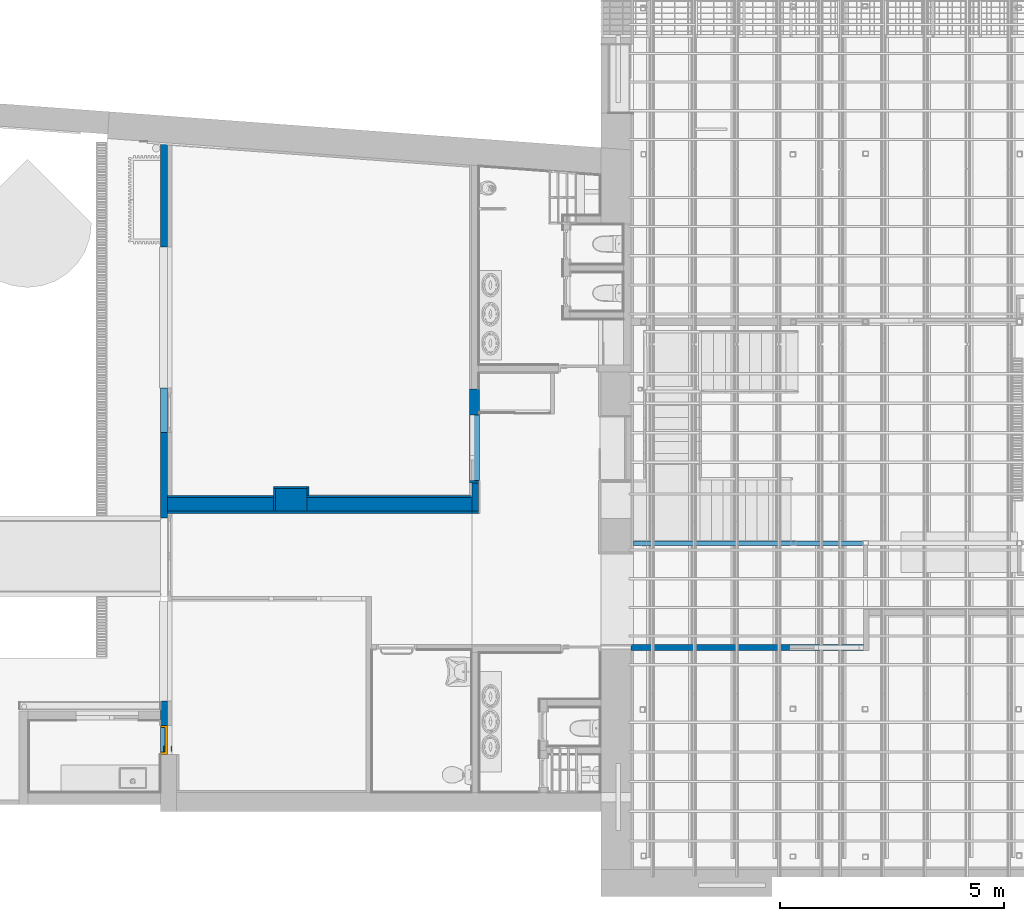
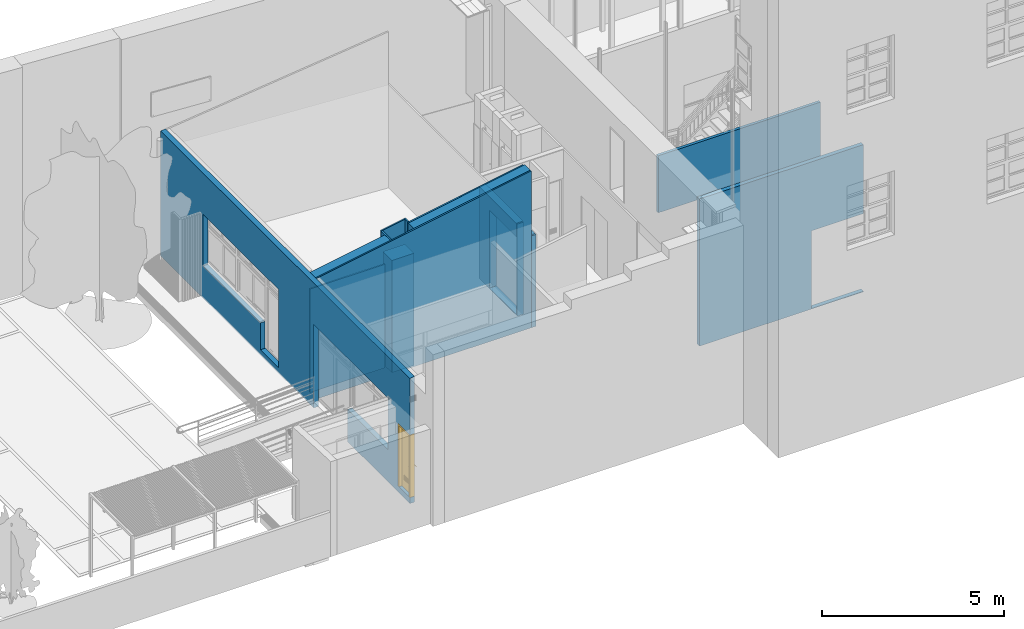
# One storey, part 36 of 75: 16 walls, 1 door, 5 openings.
"""IFC2X3 building model written with IfcOpenShell, lengths in metres."""

from ifc_helpers import new_model, entity, si_unit, converted_unit, derived_unit, direction, frame, frame_2d, origin, origin_2d_with_axis, place, context, subcontext, project, spatial, polyline, rectangle, outline, extrude, clip, bounded_halfspace, source, transform, mapped, material, material_list, layer, layer_set, layer_usage, type_object, type_shapes, element, fill, save


model = new_model("IFC2X3")

# Units and contexts
model_context = context("Model", 3, precision=1e-05, world=origin(), true_north=direction((6.12303176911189e-17, 1.0)))
body_context = subcontext(model_context, "Body", "Model", "MODEL_VIEW")
ifc_project = project(units=[si_unit("LENGTHUNIT", "METRE"), si_unit("AREAUNIT", "SQUARE_METRE"), si_unit("VOLUMEUNIT", "CUBIC_METRE"), converted_unit("PLANEANGLEUNIT", "DEGREE", entity("IfcRatioMeasure", 0.0174532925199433), si_unit("PLANEANGLEUNIT", "RADIAN"), dimensions=[0, 0, 0, 0, 0, 0, 0]), si_unit("MASSUNIT", "GRAM", prefix="KILO"), derived_unit("MASSDENSITYUNIT", [(si_unit("MASSUNIT", "GRAM", prefix="KILO"), 1), (si_unit("LENGTHUNIT", "METRE"), -3)]), derived_unit("MOMENTOFINERTIAUNIT", [(si_unit("LENGTHUNIT", "METRE"), 4)]), si_unit("TIMEUNIT", "SECOND"), si_unit("FREQUENCYUNIT", "HERTZ"), si_unit("THERMODYNAMICTEMPERATUREUNIT", "DEGREE_CELSIUS"), derived_unit("THERMALTRANSMITTANCEUNIT", [(si_unit("MASSUNIT", "GRAM", prefix="KILO"), 1), (si_unit("THERMODYNAMICTEMPERATUREUNIT", "KELVIN"), -1), (si_unit("TIMEUNIT", "SECOND"), -3)]), derived_unit("VOLUMETRICFLOWRATEUNIT", [(si_unit("LENGTHUNIT", "METRE"), 3), (si_unit("TIMEUNIT", "SECOND"), -1)]), si_unit("ELECTRICCURRENTUNIT", "AMPERE"), si_unit("ELECTRICVOLTAGEUNIT", "VOLT"), si_unit("POWERUNIT", "WATT"), si_unit("FORCEUNIT", "NEWTON", prefix="KILO"), si_unit("ILLUMINANCEUNIT", "LUX"), si_unit("LUMINOUSFLUXUNIT", "LUMEN"), si_unit("LUMINOUSINTENSITYUNIT", "CANDELA"), derived_unit("USERDEFINED", [(si_unit("MASSUNIT", "GRAM", prefix="KILO"), -1), (si_unit("LENGTHUNIT", "METRE"), -2), (si_unit("TIMEUNIT", "SECOND"), 3), (si_unit("LUMINOUSFLUXUNIT", "LUMEN"), 1)]), derived_unit("LINEARVELOCITYUNIT", [(si_unit("LENGTHUNIT", "METRE"), 1), (si_unit("TIMEUNIT", "SECOND"), -1)]), si_unit("PRESSUREUNIT", "PASCAL"), derived_unit("USERDEFINED", [(si_unit("LENGTHUNIT", "METRE"), -2), (si_unit("MASSUNIT", "GRAM", prefix="KILO"), 1), (si_unit("TIMEUNIT", "SECOND"), -2)]), derived_unit("LINEARFORCEUNIT", [(si_unit("MASSUNIT", "GRAM", prefix="KILO"), 1), (si_unit("LENGTHUNIT", "METRE"), 1), (si_unit("TIMEUNIT", "SECOND"), -2), (si_unit("LENGTHUNIT", "METRE"), -1)]), derived_unit("PLANARFORCEUNIT", [(si_unit("MASSUNIT", "GRAM", prefix="KILO"), 1), (si_unit("LENGTHUNIT", "METRE"), 1), (si_unit("TIMEUNIT", "SECOND"), -2), (si_unit("LENGTHUNIT", "METRE"), -2)])], contexts=[model_context])

# Site, building, storey
site_placement = place(None, origin())
site = spatial("IfcSite", under=ifc_project, at=site_placement, Name="Superficie", CompositionType="ELEMENT")
building_placement = place(site_placement, origin())
building = spatial("IfcBuilding", under=site, at=building_placement, Name="Telegestiones", CompositionType="ELEMENT")
storey_placement = place(building_placement, origin())
storey = spatial("IfcBuildingStorey", under=building, at=storey_placement, Name="Nivel 0_NPT", CompositionType="ELEMENT", Elevation=0.0)

# Wall, openings, door
ifc_material_1 = material(Name="Muro por defecto")
ifc_layer_1 = layer(ifc_material_1, 0.02)
ifc_layer_2 = layer(ifc_material_1, 0.13)
ifc_layer_set_1 = layer_set([ifc_layer_1, ifc_layer_2], Name="Muro básico:ARQ-MU-EX-15-Gen")
ifc_layer_usage_1 = layer_usage(ifc_layer_set_1, "AXIS2", "POSITIVE", -0.075)
wall_type_1 = type_object("IfcWallType", Name="Muro básico:ARQ-MU-EX-15-Gen", PredefinedType="STANDARD", material=ifc_layer_set_1)
wall_1_placement = place(storey_placement, frame((-4.41018737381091, 10.4435135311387, -0.2), z_axis=(0.0, 0.0, 1.0), x_axis=(0.0, -1.0, 0.0)))
wall_1 = element("IfcWallStandardCase", 1, at=wall_1_placement, inside=storey, type_object=wall_type_1, material=ifc_layer_usage_1, Name="Muro básico:ARQ-MU-EX-15-Gen", ObjectType="Muro básico:ARQ-MU-EX-15-Gen", context=body_context, shape_type="Clipping", body=[
    clip(extrude(outline(polyline([(0.0, -0.0750000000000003), (13.6799063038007, -0.0750000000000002), (13.6799063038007, 0.0749999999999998), (8.23892903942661, 0.0750000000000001), (7.93892903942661, 0.0750000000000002), (0.0109807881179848, 0.0749999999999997), (0.0, -0.0750000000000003)])), origin(), (0.0, 0.0, 1.0), 4.211), bounded_halfspace(frame((0.0, -0.0750000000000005, 4.184), z_axis=(0.0, -0.177152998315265, 0.984183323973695), x_axis=(1.0, 0.0, 0.0)), False, frame((0.0, -0.0750000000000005, 4.184)), polyline([(0.0, 0.0), (13.6799063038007, 0.0), (13.6799063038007, 0.15), (8.23892903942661, 0.15), (7.93892903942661, 0.15), (0.0109807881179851, 0.15), (0.0, 0.0)]))),
])
opening_1_placement = place(wall_1_placement, origin())
element("IfcOpeningElement", 2, at=opening_1_placement, cuts=wall_1, Name="Muro básico:ARQ-MU-EX-15-Gen", ObjectType="Opening", context=body_context, shape_type="SweptSolid", body=[
    extrude(outline(polyline([(0.273333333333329, 0.716666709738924), (1.17333333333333, 0.716666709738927), (1.17333333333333, 1.71666670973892), (-1.44666666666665, 1.71666670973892), (-1.44666666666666, -2.43333341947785), (0.273333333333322, -2.43333341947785), (0.273333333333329, 0.716666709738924)])), frame((4.76688353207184, 0.0750000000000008, 1.35333333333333), z_axis=(0.0, -1.0, 0.0), x_axis=(0.0, 0.0, -1.0)), (0.0, 0.0, 1.0), 0.15),
])
opening_2_placement = place(wall_1_placement, origin())
element("IfcOpeningElement", 3, at=opening_2_placement, cuts=wall_1, Name="Muro básico:ARQ-MU-EX-15-Gen", ObjectType="Opening", context=body_context, shape_type="SweptSolid", body=[
    extrude(outline(polyline([(-1.94561486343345, -1.50857142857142), (-0.0956148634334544, -1.50857142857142), (-0.0956148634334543, -0.428571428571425), (2.14438546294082, -0.428571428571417), (2.14438546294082, 1.29142857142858), (-0.206311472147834, 1.29142857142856), (-1.94561486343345, 1.29142857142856), (-1.94561486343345, -1.50857142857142)])), frame((10.3452405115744, 0.0750000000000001, 1.50857142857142), z_axis=(0.0, -1.0, 0.0), x_axis=(1.0, 0.0, 0.0)), (0.0, 0.0, 1.0), 0.15),
])
opening_3_placement = place(wall_1_placement, frame((13.6799063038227, 0.0749999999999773, 0.2)))
opening_3 = element("IfcOpeningElement", 4, at=opening_3_placement, cuts=wall_1, Name="ARQ-PU-INT-90x210-Mad-C2:ARQ-PU-INT-65x210-Mad:1", ObjectType="Opening", context=body_context, shape_type="SweptSolid", body=[
    extrude(rectangle(XDim=2.09999999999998, YDim=0.65, at=frame_2d((1.04999999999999, 0.325000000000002), x_axis=(1.0, 0.0))), frame((0.0, 0.0, 0.0), z_axis=(0.0, -1.0, 0.0), x_axis=(0.0, 0.0, 1.0)), (0.0, 0.0, 1.0), 0.15),
])
ifc_material_2 = material(Name="Caoba")
ifc_material_3 = material(Name="Aluminio")
ifc_material_4 = material(Name="<Unnamed>")
ifc_material_list_1 = material_list([ifc_material_2, ifc_material_3, ifc_material_3, ifc_material_3, ifc_material_3, ifc_material_3, ifc_material_3, ifc_material_4, ifc_material_4, ifc_material_2])
ifc_material_list_2 = material_list([ifc_material_2, ifc_material_3, ifc_material_3, ifc_material_3, ifc_material_3, ifc_material_3, ifc_material_3, ifc_material_4, ifc_material_4, ifc_material_2])
door_style = type_object("IfcDoorStyle", Name="ARQ-PU-INT-90x210-Mad-C2:ARQ-PU-INT-65x210-Mad", ConstructionType="NOTDEFINED", OperationType="DOUBLE_SWING_RIGHT", ParameterTakesPrecedence=False, Sizeable=False, material=ifc_material_list_2)
shared_shape = source(origin(), body_context, "Body", "SweptSolid", [
    extrude(outline(polyline([(-0.324999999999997, -1.06249999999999), (0.325000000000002, -1.06249999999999), (0.325000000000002, 1.03749999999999), (0.275000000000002, 1.03749999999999), (0.275000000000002, -1.01249999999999), (-0.275000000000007, -1.01249999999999), (-0.275000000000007, 1.03749999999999), (-0.324999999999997, 1.03749999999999), (-0.324999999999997, -1.06249999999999)])), frame((0.324999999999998, -0.15, 1.03749999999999), z_axis=(0.0, 1.0, 0.0), x_axis=(1.0, 0.0, 0.0)), (0.0, 0.0, 1.0), 0.15),
    extrude(rectangle(XDim=0.00504261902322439, YDim=0.0554154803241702, at=frame_2d((-2.97071395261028e-17, -1.73472347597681e-17), x_axis=(1.0, 0.0))), frame((0.145000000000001, -0.125056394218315, 0.409593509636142), z_axis=(1.0, 0.0, 0.0), x_axis=(0.0, -0.514495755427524, -0.857492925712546)), (0.0, 0.0, 1.0), 0.36),
    extrude(rectangle(XDim=0.00504261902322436, YDim=0.0554154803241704, at=frame_2d((1.25767452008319e-17, 1.21430643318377e-17), x_axis=(1.0, 0.0))), frame((0.145000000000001, -0.125056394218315, 0.289593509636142), z_axis=(1.0, 0.0, 0.0), x_axis=(0.0, -0.514495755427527, -0.857492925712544)), (0.0, 0.0, 1.0), 0.36),
    extrude(rectangle(XDim=0.00504261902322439, YDim=0.0554154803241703, at=frame_2d((-4.33680868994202e-18, 8.67361737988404e-18), x_axis=(1.0, 0.0))), frame((0.145000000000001, -0.125056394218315, 0.379593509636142), z_axis=(1.0, 0.0, 0.0), x_axis=(0.0, -0.514495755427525, -0.857492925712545)), (0.0, 0.0, 1.0), 0.36),
    extrude(rectangle(XDim=0.00504261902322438, YDim=0.0554154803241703, at=origin_2d_with_axis()), frame((0.145000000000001, -0.125056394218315, 0.349593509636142), z_axis=(1.0, 0.0, 0.0), x_axis=(0.0, -0.514495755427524, -0.857492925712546)), (0.0, 0.0, 1.0), 0.36),
    extrude(rectangle(XDim=0.00504261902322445, YDim=0.0554154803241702, at=frame_2d((-2.16840434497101e-18, 1.73472347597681e-18), x_axis=(1.0, 0.0))), frame((0.145000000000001, -0.125056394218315, 0.319593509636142), z_axis=(1.0, 0.0, 0.0), x_axis=(0.0, -0.514495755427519, -0.857492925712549)), (0.0, 0.0, 1.0), 0.36),
    extrude(outline(polyline([(-0.1, -0.2), (0.1, -0.2), (0.1, 0.2), (-0.1, 0.2), (-0.1, -0.2)]), holes=[polyline([(-0.08, -0.18), (-0.08, 0.18), (0.08, 0.18), (0.08, -0.18), (-0.08, -0.18)])]), frame((0.325000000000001, -0.15, 0.35), z_axis=(0.0, 1.0, 0.0), x_axis=(0.0, 0.0, -1.0)), (0.0, 0.0, 1.0), 0.05),
    extrude(rectangle(XDim=0.0196001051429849, YDim=0.120000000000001, at=frame_2d((-1.64798730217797e-17, -6.93889390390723e-18), x_axis=(1.0, 0.0))), frame((0.130322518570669, -0.244800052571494, 0.90000000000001), z_axis=(0.0, 0.0, 1.0), x_axis=(0.0, -1.0, 0.0)), (0.0, 0.0, 1.0), 0.0200000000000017),
    extrude(rectangle(XDim=0.02, YDim=0.12, at=origin_2d_with_axis()), frame((0.130322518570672, -0.0799999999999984, 0.900000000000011), z_axis=(0.0, 0.0, 1.0), x_axis=(0.0, 1.0, 0.0)), (0.0, 0.0, 1.0), 0.0200000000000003),
    extrude(outline(polyline([(-1.02499999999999, -0.275000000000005), (1.02499999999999, -0.275000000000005), (1.02499999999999, 0.275000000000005), (-1.02499999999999, 0.275000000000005), (-1.02499999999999, -0.275000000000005)]), holes=[polyline([(0.57499999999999, -0.200000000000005), (0.57499999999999, 0.199999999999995), (0.77499999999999, 0.199999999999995), (0.77499999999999, -0.200000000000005), (0.57499999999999, -0.200000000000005)])]), frame((0.324999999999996, -0.15, 1.02499999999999), z_axis=(0.0, 1.0, 0.0), x_axis=(0.0, 0.0, -1.0)), (0.0, 0.0, 1.0), 0.05),
])
type_shapes(door_style, [shared_shape])
door_placement = place(opening_3_placement, frame((0.0, -0.149999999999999, 0.0), z_axis=(0.0, 0.0, 1.0), x_axis=(-1.0, 0.0, 0.0)))
door = element("IfcDoor", 5, at=door_placement, inside=storey, type_object=door_style, material=ifc_material_list_1, Name="ARQ-PU-INT-90x210-Mad-C2:ARQ-PU-INT-65x210-Mad", ObjectType="ARQ-PU-INT-90x210-Mad-C2:ARQ-PU-INT-65x210-Mad", OverallHeight=2.09999999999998, OverallWidth=0.650000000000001, context=body_context, shape_type="MappedRepresentation", body=[
    mapped(shared_shape, transform((0.0, 0.0, 0.0), scale=1.0)),
])
fill(opening_3, door)

# Walls
ifc_layer_3 = layer(ifc_material_1, 0.3)
ifc_layer_set_2 = layer_set([ifc_layer_3], Name="Muro básico:ARQ-MU-IN-30-Gen")
ifc_layer_usage_2 = layer_usage(ifc_layer_set_2, "AXIS2", "POSITIVE", -0.15)
wall_type_2 = type_object("IfcWallType", Name="Muro básico:ARQ-MU-IN-30-Gen", PredefinedType="STANDARD", material=ifc_layer_set_2)
wall_2_placement = place(storey_placement, frame((-4.33518737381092, 2.35458449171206, -0.0199999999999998)))
element("IfcWallStandardCase", 6, at=wall_2_placement, inside=storey, type_object=wall_type_2, material=ifc_layer_usage_2, Name="Muro básico:ARQ-MU-IN-30-Gen", ObjectType="Muro básico:ARQ-MU-IN-30-Gen", context=body_context, shape_type="Clipping", body=[
    clip(extrude(rectangle(XDim=2.37001266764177, YDim=0.3, at=frame_2d((1.18500633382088, -1.38777878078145e-16), x_axis=(-1.0, 0.0))), origin(), (0.0, 0.0, 1.0), 4.45760228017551), bounded_halfspace(frame((0.0, -0.15, 4.031), z_axis=(-0.177152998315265, 0.0, 0.984183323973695), x_axis=(0.0, -1.0, 0.0)), False, frame((0.0, -0.15, 4.031)), polyline([(0.0, 0.0), (2.37001266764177, 0.0), (2.37001266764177, 0.3), (0.0, 0.3), (0.0, 0.0)]))),
])
ifc_layer_usage_3 = layer_usage(ifc_layer_set_2, "AXIS2", "POSITIVE", -0.15)
wall_3_placement = place(storey_placement, frame((-1.22398060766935, 2.35458449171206, -0.0199999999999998)))
element("IfcWallStandardCase", 7, at=wall_3_placement, inside=storey, type_object=wall_type_2, material=ifc_layer_usage_3, Name="Muro básico:ARQ-MU-IN-30-Gen", ObjectType="Muro básico:ARQ-MU-IN-30-Gen", context=body_context, shape_type="Clipping", body=[
    clip(extrude(rectangle(XDim=3.69879323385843, YDim=0.3, at=frame_2d((1.84939661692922, -1.38777878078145e-16), x_axis=(-1.0, 0.0))), origin(), (0.0, 0.0, 1.0), 5.25679999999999), bounded_halfspace(frame((0.0, -0.15, 4.59101721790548), z_axis=(-0.177152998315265, 0.0, 0.984183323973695), x_axis=(0.0, -1.0, 0.0)), False, frame((0.0, -0.15, 4.59101721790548)), polyline([(0.0, 0.0), (3.69879323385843, 0.0), (3.69879323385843, 0.3), (3.64879323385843, 0.3), (0.0, 0.3), (0.0, 0.0)]))),
])
ifc_layer_4 = layer(ifc_material_1, 0.15)
ifc_layer_set_3 = layer_set([ifc_layer_4], Name="Muro básico:ARQ-MU-IN-15-Gen")
ifc_layer_usage_4 = layer_usage(ifc_layer_set_3, "AXIS2", "POSITIVE", -0.075)
wall_type_3 = type_object("IfcWallType", Name="Muro básico:ARQ-MU-IN-15-Gen", PredefinedType="STANDARD", material=ifc_layer_set_3)
wall_4_placement = place(storey_placement, frame((2.54981262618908, 2.20458449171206, -0.0199999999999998), z_axis=(0.0, 0.0, 1.0), x_axis=(0.0, 1.0, 0.0)))
element("IfcWallStandardCase", 8, at=wall_4_placement, inside=storey, type_object=wall_type_3, material=ifc_layer_usage_4, Name="Muro básico:ARQ-MU-IN-15-Gen", ObjectType="Muro básico:ARQ-MU-IN-15-Gen", context=body_context, shape_type="SweptSolid", body=[
    extrude(rectangle(XDim=0.627951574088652, YDim=0.149999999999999, at=frame_2d((0.313975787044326, 8.32667268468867e-17), x_axis=(-1.0, 0.0))), origin(), (0.0, 0.0, 1.0), 3.08),
])

# Wall, opening
ifc_material_5 = material(Name="Placa yeso entera")
ifc_layer_5 = layer(ifc_material_5, 0.015)
ifc_layer_6 = layer(ifc_material_5, 0.015)
ifc_material_6 = material(Name="Estructura de Hierro Galvanizado")
ifc_layer_7 = layer(ifc_material_6, 0.07)
ifc_layer_8 = layer(ifc_material_5, 0.015)
ifc_layer_9 = layer(ifc_material_5, 0.015)
ifc_layer_set_4 = layer_set([ifc_layer_5, ifc_layer_6, ifc_layer_7, ifc_layer_8, ifc_layer_9], Name="Muro básico:ARQ-MU-IN-13-Ye-T4")
ifc_layer_usage_5 = layer_usage(ifc_layer_set_4, "AXIS2", "NEGATIVE", 0.065)
wall_type_4 = type_object("IfcWallType", Name="Muro básico:ARQ-MU-IN-13-Ye-T4", PredefinedType="STANDARD", material=ifc_layer_set_4)
wall_5_placement = place(storey_placement, frame((6.03428977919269, -0.846462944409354, -0.0199999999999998)))
wall_5 = element("IfcWallStandardCase", 9, at=wall_5_placement, inside=storey, type_object=wall_type_4, material=ifc_layer_usage_5, Name="Muro básico:ARQ-MU-IN-13-Ye-T4", ObjectType="Muro básico:ARQ-MU-IN-13-Ye-T4", context=body_context, shape_type="SweptSolid", body=[
    extrude(rectangle(XDim=5.18955952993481, YDim=0.13, at=frame_2d((2.59477976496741, 1.38777878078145e-17), x_axis=(-1.0, 0.0))), origin(), (0.0, 0.0, 1.0), 4.93),
])
opening_4_placement = place(wall_5_placement, origin())
element("IfcOpeningElement", 10, at=opening_4_placement, cuts=wall_5, Name="Muro básico:ARQ-MU-IN-13-Ye-T4", ObjectType="Opening", context=body_context, shape_type="SweptSolid", body=[
    extrude(rectangle(XDim=2.6, YDim=1.65, at=frame_2d((-4.9960036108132e-16, 0.0), x_axis=(0.0, 1.0))), frame((4.36455952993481, -0.2174, 1.32), z_axis=(0.0, 1.0, 0.0), x_axis=(-1.0, 0.0, 0.0)), (0.0, 0.0, 1.0), 0.4348),
])

# Wall
ifc_layer_10 = layer(ifc_material_5, 0.01)
ifc_layer_11 = layer(ifc_material_6, 0.07)
ifc_layer_12 = layer(ifc_material_5, 0.01)
ifc_layer_set_5 = layer_set([ifc_layer_10, ifc_layer_11, ifc_layer_12], Name="Muro básico:ARQ-MU-IN-9-Ye-T2")
ifc_layer_usage_6 = layer_usage(ifc_layer_set_5, "AXIS2", "NEGATIVE", 0.045)
wall_type_5 = type_object("IfcWallType", Name="Muro básico:ARQ-MU-IN-9-Ye-T2", PredefinedType="STANDARD", material=ifc_layer_set_5)
wall_6_placement = place(storey_placement, frame((11.2138126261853, 1.4845940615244, 3.0), z_axis=(0.0, 0.0, 1.0), x_axis=(-1.0, 0.0, 0.0)))
element("IfcWallStandardCase", 11, at=wall_6_placement, inside=storey, type_object=wall_type_5, material=ifc_layer_usage_6, Name="Muro básico:ARQ-MU-IN-9-Ye-T2", ObjectType="Muro básico:ARQ-MU-IN-9-Ye-T2", context=body_context, shape_type="SweptSolid", body=[
    extrude(rectangle(XDim=5.12952284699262, YDim=0.0900000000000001, at=frame_2d((2.56476142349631, 0.0), x_axis=(-1.0, 0.0))), origin(), (0.0, 0.0, 1.0), 1.91),
])

# Wall, opening
ifc_layer_13 = layer(ifc_material_5, 0.0125)
ifc_layer_14 = layer(ifc_material_5, 0.0125)
ifc_layer_15 = layer(ifc_material_6, 0.07)
ifc_material_7 = material(Name="Aire")
ifc_layer_16 = layer(ifc_material_7, 0.03)
ifc_layer_17 = layer(ifc_material_6, 0.07)
ifc_layer_18 = layer(ifc_material_5, 0.0125)
ifc_layer_19 = layer(ifc_material_5, 0.0125)
ifc_layer_set_6 = layer_set([ifc_layer_13, ifc_layer_14, ifc_layer_15, ifc_layer_16, ifc_layer_17, ifc_layer_18, ifc_layer_19], Name="Muro básico:ARQ-MU-IN-22-Ye-T5")
ifc_layer_usage_7 = layer_usage(ifc_layer_set_6, "AXIS2", "NEGATIVE", 0.11)
wall_type_6 = type_object("IfcWallType", Name="Muro básico:ARQ-MU-IN-22-Ye-T5", PredefinedType="STANDARD", material=ifc_layer_set_6)
wall_7_placement = place(storey_placement, frame((2.52740672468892, 4.93458449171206, -0.0199999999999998), z_axis=(0.0, 0.0, 1.0), x_axis=(0.0, -1.0, 0.0)))
wall_7 = element("IfcWallStandardCase", 12, at=wall_7_placement, inside=storey, type_object=wall_type_6, material=ifc_layer_usage_7, Name="Muro básico:ARQ-MU-IN-22-Ye-T5", ObjectType="Muro básico:ARQ-MU-IN-22-Ye-T5", context=body_context, shape_type="SweptSolid", body=[
    extrude(rectangle(XDim=2.05204842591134, YDim=0.22, at=frame_2d((1.02602421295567, 0.0), x_axis=(-1.0, 0.0))), origin(), (0.0, 0.0, 1.0), 3.08),
])
opening_5_placement = place(wall_7_placement, origin())
element("IfcOpeningElement", 13, at=opening_5_placement, cuts=wall_7, Name="Muro básico:ARQ-MU-IN-22-Ye-T5", ObjectType="Opening", context=body_context, shape_type="SweptSolid", body=[
    extrude(rectangle(XDim=2.6, YDim=1.46676759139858, at=frame_2d((0.0, 0.0), x_axis=(0.0, 1.0))), frame((1.31936463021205, -0.2624, 1.32), z_axis=(0.0, 1.0, 0.0), x_axis=(-1.0, 0.0, 0.0)), (0.0, 0.0, 1.0), 0.524800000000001),
])

# Walls
ifc_layer_20 = layer(ifc_material_5, 0.012)
ifc_layer_21 = layer(ifc_material_6, 0.038)
ifc_layer_set_7 = layer_set([ifc_layer_20, ifc_layer_21], Name="Muro básico:ARQ-RE-IN-5-Ye-M2")
ifc_layer_usage_8 = layer_usage(ifc_layer_set_7, "AXIS2", "POSITIVE", -0.025)
wall_type_7 = type_object("IfcWallType", Name="Muro básico:ARQ-RE-IN-5-Ye-M2", PredefinedType="STANDARD", material=ifc_layer_set_7)
wall_8_placement = place(storey_placement, frame((2.62481262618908, 2.85753606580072, -0.0199999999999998), z_axis=(0.0, 0.0, 1.0), x_axis=(-1.0, 0.0, 0.0)))
element("IfcWallStandardCase", 14, at=wall_8_placement, inside=storey, type_object=wall_type_7, material=ifc_layer_usage_8, Name="Muro básico:ARQ-RE-IN-5-Ye-M2", ObjectType="Muro básico:ARQ-RE-IN-5-Ye-M2", context=body_context, shape_type="SweptSolid", body=[
    extrude(rectangle(XDim=0.207405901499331, YDim=0.0499999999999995, at=frame_2d((0.103702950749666, 1.04083408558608e-16), x_axis=(-1.0, 0.0))), origin(), (0.0, 0.0, 1.0), 3.08),
])
ifc_layer_usage_9 = layer_usage(ifc_layer_set_7, "AXIS2", "POSITIVE", -0.025)
wall_9_placement = place(storey_placement, frame((2.46740672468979, 2.52958449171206, -0.0199999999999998), z_axis=(0.0, 0.0, 1.0), x_axis=(-1.0, 0.0, 0.0)))
element("IfcWallStandardCase", 15, at=wall_9_placement, inside=storey, type_object=wall_type_7, material=ifc_layer_usage_9, Name="Muro básico:ARQ-RE-IN-5-Ye-M2", ObjectType="Muro básico:ARQ-RE-IN-5-Ye-M2", context=body_context, shape_type="Clipping", body=[
    clip(clip(clip(extrude(rectangle(XDim=3.68258143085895, YDim=0.0499999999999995, at=frame_2d((1.84129071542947, 6.76542155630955e-17), x_axis=(-1.0, 0.0))), origin(), (0.0, 0.0, 1.0), 5.24779999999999), bounded_halfspace(frame((3.68258143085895, -0.0250000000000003, 4.59260228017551), z_axis=(0.177152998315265, 0.0, 0.984183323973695), x_axis=(0.0, 1.0, 0.0)), False, frame((3.68258143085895, -0.0250000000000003, 4.59260228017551)), polyline([(0.0, 0.0), (0.0, 0.05), (-3.63998733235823, 0.05), (-3.63998733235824, 0.0), (-0.0499999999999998, 0.0), (0.0, 0.0)]))), bounded_halfspace(frame((0.0425940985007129, 0.0249999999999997, 3.482), z_axis=(1.0, 0.0, 0.0), x_axis=(0.0, 1.0, 0.0)), True, frame((0.0425940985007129, 0.0249999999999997, 3.482), z_axis=(1.0, 0.0, 0.0), x_axis=(0.0, 1.0, 0.0)), polyline([(0.0, 0.0), (0.0, 1.76579999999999), (-0.05, 1.76579999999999), (-0.0499999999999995, 0.0), (0.0, 0.0)]))), bounded_halfspace(frame((0.042594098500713, -0.0249999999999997, 3.482), z_axis=(0.0, 0.0, -1.0), x_axis=(1.0, 0.0, 0.0)), True, frame((0.042594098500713, -0.0249999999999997, 3.482), z_axis=(0.0, 0.0, -1.0), x_axis=(1.0, 0.0, 0.0)), polyline([(0.0, 0.0), (-0.0425940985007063, 0.0), (-0.0425940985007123, -0.0499999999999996), (0.0, -0.0499999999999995), (0.0, 0.0)]))),
])
ifc_layer_usage_10 = layer_usage(ifc_layer_set_7, "AXIS2", "NEGATIVE", 0.025)
wall_10_placement = place(storey_placement, frame((-1.19017470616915, 2.75458185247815, -0.0199999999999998), z_axis=(0.0, 0.0, 1.0), x_axis=(0.0, -1.0, 0.0)))
element("IfcWallStandardCase", 16, at=wall_10_placement, inside=storey, type_object=wall_type_7, material=ifc_layer_usage_10, Name="Muro básico:ARQ-RE-IN-5-Ye-M2", ObjectType="Muro básico:ARQ-RE-IN-5-Ye-M2", context=body_context, shape_type="Clipping", body=[
    clip(extrude(rectangle(XDim=0.199997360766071, YDim=0.05, at=frame_2d((0.0999986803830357, 0.0), x_axis=(-1.0, 0.0))), origin(), (0.0, 0.0, 1.0), 4.60160228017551), bounded_halfspace(frame((0.0, -0.0249999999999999, 4.59260228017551), z_axis=(0.0, -0.177152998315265, 0.984183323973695), x_axis=(1.0, 0.0, 0.0)), False, frame((0.0, -0.0249999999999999, 4.59260228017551)), polyline([(0.0, 0.0), (0.05, 0.0), (0.199997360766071, 0.0), (0.199997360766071, 0.0499999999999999), (0.0, 0.05), (0.0, 0.0)]))),
])
ifc_layer_usage_11 = layer_usage(ifc_layer_set_7, "AXIS2", "POSITIVE", -0.025)
wall_11_placement = place(storey_placement, frame((-1.21517470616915, 2.72958185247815, -0.0199999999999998), z_axis=(0.0, 0.0, 1.0), x_axis=(-1.0, 0.0, 0.0)))
element("IfcWallStandardCase", 17, at=wall_11_placement, inside=storey, type_object=wall_type_7, material=ifc_layer_usage_11, Name="Muro básico:ARQ-RE-IN-5-Ye-M2", ObjectType="Muro básico:ARQ-RE-IN-5-Ye-M2", context=body_context, shape_type="Clipping", body=[
    clip(extrude(rectangle(XDim=0.75, YDim=0.0499999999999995, at=frame_2d((0.375, 7.45931094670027e-17), x_axis=(-1.0, 0.0))), origin(), (0.0, 0.0, 1.0), 4.59260228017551), bounded_halfspace(frame((0.0, -0.0250000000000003, 4.59260228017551), z_axis=(0.177152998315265, 0.0, 0.984183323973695), x_axis=(0.0, 1.0, 0.0)), False, frame((0.0, -0.0250000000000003, 4.59260228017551)), polyline([(0.0, 0.0), (0.75, 0.0), (0.75, 0.05), (0.7, 0.05), (0.0, 0.05), (0.0, 0.0)]))),
])
ifc_layer_usage_12 = layer_usage(ifc_layer_set_7, "AXIS2", "POSITIVE", -0.025)
wall_12_placement = place(storey_placement, frame((-1.94017470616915, 2.70458185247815, -0.0199999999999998), z_axis=(0.0, 0.0, 1.0), x_axis=(0.0, -1.0, 0.0)))
element("IfcWallStandardCase", 18, at=wall_12_placement, inside=storey, type_object=wall_type_7, material=ifc_layer_usage_12, Name="Muro básico:ARQ-RE-IN-5-Ye-M2", ObjectType="Muro básico:ARQ-RE-IN-5-Ye-M2", context=body_context, shape_type="Clipping", body=[
    clip(extrude(rectangle(XDim=0.5, YDim=0.05, at=frame_2d((0.25, 6.76542155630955e-17), x_axis=(-1.0, 0.0))), origin(), (0.0, 0.0, 1.0), 4.46660228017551), bounded_halfspace(frame((0.0, -0.0249999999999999, 4.45760228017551), z_axis=(0.0, -0.177152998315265, 0.984183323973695), x_axis=(1.0, 0.0, 0.0)), False, frame((0.0, -0.0249999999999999, 4.45760228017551)), polyline([(0.0, 0.0), (0.199997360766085, 0.0), (0.5, 0.0), (0.5, 0.0500000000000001), (0.0, 0.05), (0.0, 0.0)]))),
])
ifc_layer_usage_13 = layer_usage(ifc_layer_set_7, "AXIS2", "POSITIVE", -0.025)
wall_13_placement = place(storey_placement, frame((-1.96517470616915, 2.52958449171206, -0.0199999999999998), z_axis=(0.0, 0.0, 1.0), x_axis=(-1.0, 0.0, 0.0)))
element("IfcWallStandardCase", 19, at=wall_13_placement, inside=storey, type_object=wall_type_7, material=ifc_layer_usage_13, Name="Muro básico:ARQ-RE-IN-5-Ye-M2", ObjectType="Muro básico:ARQ-RE-IN-5-Ye-M2", context=body_context, shape_type="SweptSolid", body=[
    extrude(rectangle(XDim=2.37001266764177, YDim=0.0499999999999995, at=frame_2d((1.18500633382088, -1.47451495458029e-16), x_axis=(-1.0, 0.0))), origin(), (0.0, 0.0, 1.0), 3.47),
])
ifc_layer_usage_14 = layer_usage(ifc_layer_set_7, "AXIS2", "POSITIVE", -0.025)
wall_14_placement = place(storey_placement, frame((-4.3351873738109, 2.17958449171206, -0.0199999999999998)))
element("IfcWallStandardCase", 20, at=wall_14_placement, inside=storey, type_object=wall_type_7, material=ifc_layer_usage_14, Name="Muro básico:ARQ-RE-IN-5-Ye-M2", ObjectType="Muro básico:ARQ-RE-IN-5-Ye-M2", context=body_context, shape_type="Clipping", body=[
    clip(extrude(rectangle(XDim=6.80999999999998, YDim=0.05, at=frame_2d((3.40499999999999, 5.55111512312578e-17), x_axis=(-1.0, 0.0))), origin(), (0.0, 0.0, 1.0), 5.25679999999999), bounded_halfspace(frame((0.0, -0.025, 4.031), z_axis=(-0.177152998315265, 0.0, 0.984183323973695), x_axis=(0.0, -1.0, 0.0)), False, frame((0.0, -0.025, 4.031)), polyline([(0.0, 0.0), (0.100000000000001, 0.0), (6.80999999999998, 0.0), (6.80999999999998, 0.0500000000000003), (0.0, 0.05), (0.0, 0.0)]))),
])
ifc_layer_usage_15 = layer_usage(ifc_layer_set_7, "AXIS2", "POSITIVE", -0.025)
wall_15_placement = place(storey_placement, frame((2.47481262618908, 2.17958449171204, -0.0199999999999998)))
element("IfcWallStandardCase", 21, at=wall_15_placement, inside=storey, type_object=wall_type_7, material=ifc_layer_usage_15, Name="Muro básico:ARQ-RE-IN-5-Ye-M2", ObjectType="Muro básico:ARQ-RE-IN-5-Ye-M2", context=body_context, shape_type="SweptSolid", body=[
    extrude(rectangle(XDim=0.150000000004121, YDim=0.05, at=frame_2d((0.0750000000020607, 0.0), x_axis=(-1.0, 0.0))), origin(), (0.0, 0.0, 1.0), 3.08),
])
ifc_layer_22 = layer(ifc_material_1, 0.5)
ifc_layer_set_8 = layer_set([ifc_layer_22], Name="Muro básico:ARQ-MU-IN-50-Gen")
ifc_layer_usage_16 = layer_usage(ifc_layer_set_8, "AXIS2", "POSITIVE", -0.25)
wall_type_8 = type_object("IfcWallType", Name="Muro básico:ARQ-MU-IN-50-Gen", PredefinedType="STANDARD", material=ifc_layer_set_8)
wall_16_placement = place(storey_placement, frame((-1.91517470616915, 2.45458185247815, -0.0199999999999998)))
element("IfcWallStandardCase", 22, at=wall_16_placement, inside=storey, type_object=wall_type_8, material=ifc_layer_usage_16, Name="Muro básico:ARQ-MU-IN-50-Gen", ObjectType="Muro básico:ARQ-MU-IN-50-Gen", context=body_context, shape_type="SweptSolid", body=[
    extrude(rectangle(XDim=0.700000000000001, YDim=0.5, at=frame_2d((0.350000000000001, 0.0), x_axis=(-1.0, 0.0))), origin(), (0.0, 0.0, 1.0), 3.76),
])

save(model, "model.ifc")
